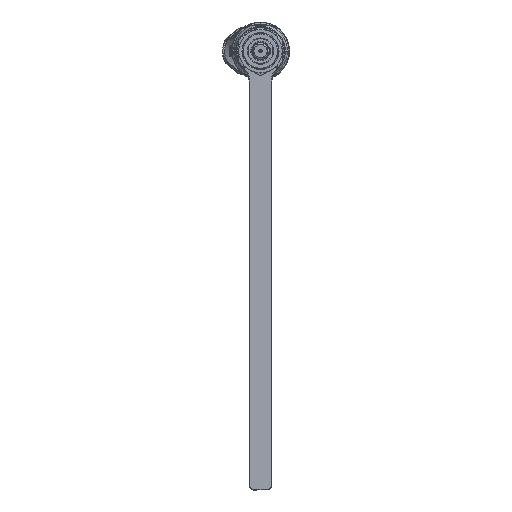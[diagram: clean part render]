
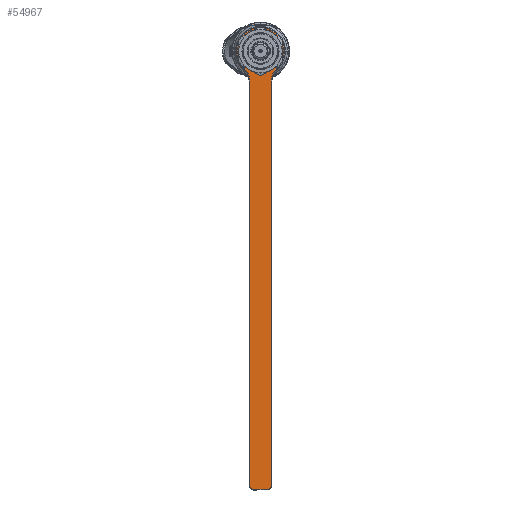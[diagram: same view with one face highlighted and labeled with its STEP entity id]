
A CAD part, left-side view. The second image highlights one B-rep face of the part: STEP entity #54967.
In plain terms, the highlighted planar face has unit normal (-1, 0, 0).
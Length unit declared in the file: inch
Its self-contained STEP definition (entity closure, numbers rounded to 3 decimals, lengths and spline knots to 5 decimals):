
#2051 = PLANE ( 'NONE',  #56205 ) ;
#2059 = CARTESIAN_POINT ( 'NONE',  ( -9.7045, 0., 0. ) ) ;
#2060 = DIRECTION ( 'NONE',  ( -1., 0., 0. ) ) ;
#2061 = DIRECTION ( 'NONE',  ( 0., 0., 1. ) ) ;
#6787 = FACE_BOUND ( 'NONE', #44068, .T. ) ;
#6791 = FACE_OUTER_BOUND ( 'NONE', #44103, .T. ) ;
#12773 = CIRCLE ( 'NONE', #20953, 0.64125 ) ;
#12779 = CIRCLE ( 'NONE', #20959, 0.11 ) ;
#12785 = LINE ( 'NONE', #59717, #12788 ) ;
#12788 = VECTOR ( 'NONE', #59706, 39.37008 ) ;
#12791 = CIRCLE ( 'NONE', #20970, 0.515 ) ;
#12794 = CIRCLE ( 'NONE', #20974, 0.55 ) ;
#12796 = CIRCLE ( 'NONE', #20972, 0.55 ) ;
#12798 = CIRCLE ( 'NONE', #20975, 0.64125 ) ;
#12800 = LINE ( 'NONE', #59737, #12802 ) ;
#12801 = CIRCLE ( 'NONE', #20977, 0.11 ) ;
#12802 = VECTOR ( 'NONE', #59738, 39.37008 ) ;
#12803 = LINE ( 'NONE', #59742, #12805 ) ;
#12804 = CIRCLE ( 'NONE', #20978, 0.515 ) ;
#12805 = VECTOR ( 'NONE', #59743, 39.37008 ) ;
#13896 = VERTEX_POINT ( 'NONE', #57697 ) ;
#14221 = VERTEX_POINT ( 'NONE', #18687 ) ;
#18687 = CARTESIAN_POINT ( 'NONE',  ( -9.7045, -0.2975, -11.875 ) ) ;
#20953 = AXIS2_PLACEMENT_3D ( 'NONE', #59700, #59701, #59702 ) ;
#20959 = AXIS2_PLACEMENT_3D ( 'NONE', #59711, #59712, #59713 ) ;
#20970 = AXIS2_PLACEMENT_3D ( 'NONE', #59731, #59732, #59733 ) ;
#20972 = AXIS2_PLACEMENT_3D ( 'NONE', #59734, #59735, #59736 ) ;
#20974 = AXIS2_PLACEMENT_3D ( 'NONE', #59739, #59740, #59741 ) ;
#20975 = AXIS2_PLACEMENT_3D ( 'NONE', #59744, #59745, #59746 ) ;
#20977 = AXIS2_PLACEMENT_3D ( 'NONE', #59747, #59748, #59749 ) ;
#20978 = AXIS2_PLACEMENT_3D ( 'NONE', #59751, #59752, #59753 ) ;
#44068 = EDGE_LOOP ( 'NONE', ( #58254, #57926 ) ) ;
#44103 = EDGE_LOOP ( 'NONE', ( #59277, #57931, #58612, #57897, #58042, #59279, #57820, #59060, #57831 ) ) ;
#47450 = VERTEX_POINT ( 'NONE', #58534 ) ;
#47507 = VERTEX_POINT ( 'NONE', #58581 ) ;
#48015 = VERTEX_POINT ( 'NONE', #58801 ) ;
#48230 = VERTEX_POINT ( 'NONE', #58851 ) ;
#48320 = VERTEX_POINT ( 'NONE', #58881 ) ;
#48406 = VERTEX_POINT ( 'NONE', #58904 ) ;
#48510 = VERTEX_POINT ( 'NONE', #58950 ) ;
#48518 = VERTEX_POINT ( 'NONE', #58955 ) ;
#48760 = VERTEX_POINT ( 'NONE', #59068 ) ;
#49933 = EDGE_CURVE ( 'NONE', #48518, #48320, #12773, .T. ) ;
#49936 = EDGE_CURVE ( 'NONE', #48760, #47507, #12779, .T. ) ;
#49939 = EDGE_CURVE ( 'NONE', #48510, #48760, #12785, .T. ) ;
#49944 = EDGE_CURVE ( 'NONE', #13896, #48510, #12791, .T. ) ;
#49945 = EDGE_CURVE ( 'NONE', #48015, #48230, #12796, .T. ) ;
#49946 = EDGE_CURVE ( 'NONE', #48230, #48015, #12794, .T. ) ;
#49947 = EDGE_CURVE ( 'NONE', #48320, #13896, #12798, .T. ) ;
#49948 = EDGE_CURVE ( 'NONE', #47507, #47450, #12800, .T. ) ;
#49949 = EDGE_CURVE ( 'NONE', #47450, #14221, #12801, .T. ) ;
#49950 = EDGE_CURVE ( 'NONE', #14221, #48406, #12803, .T. ) ;
#49951 = EDGE_CURVE ( 'NONE', #48406, #48518, #12804, .T. ) ;
#54967 = ADVANCED_FACE ( 'NONE', ( #6787, #6791 ), #2051, .T. ) ;
#56205 = AXIS2_PLACEMENT_3D ( 'NONE', #2059, #2060, #2061 ) ;
#57697 = CARTESIAN_POINT ( 'NONE',  ( -9.7045, 0.45061, -0.45624 ) ) ;
#57820 = ORIENTED_EDGE ( 'NONE', *, *, #49949, .T. ) ;
#57831 = ORIENTED_EDGE ( 'NONE', *, *, #49951, .T. ) ;
#57897 = ORIENTED_EDGE ( 'NONE', *, *, #49939, .T. ) ;
#57926 = ORIENTED_EDGE ( 'NONE', *, *, #49946, .T. ) ;
#57931 = ORIENTED_EDGE ( 'NONE', *, *, #49947, .T. ) ;
#58042 = ORIENTED_EDGE ( 'NONE', *, *, #49936, .T. ) ;
#58254 = ORIENTED_EDGE ( 'NONE', *, *, #49945, .T. ) ;
#58534 = CARTESIAN_POINT ( 'NONE',  ( -9.7045, -0.1875, -11.985 ) ) ;
#58581 = CARTESIAN_POINT ( 'NONE',  ( -9.7045, 0.1875, -11.985 ) ) ;
#58612 = ORIENTED_EDGE ( 'NONE', *, *, #49944, .T. ) ;
#58801 = CARTESIAN_POINT ( 'NONE',  ( -9.7045, 0., -0.55 ) ) ;
#58851 = CARTESIAN_POINT ( 'NONE',  ( -9.7045, 0., 0.55 ) ) ;
#58881 = CARTESIAN_POINT ( 'NONE',  ( -9.7045, 0., 0.64125 ) ) ;
#58904 = CARTESIAN_POINT ( 'NONE',  ( -9.7045, -0.2975, -0.82265 ) ) ;
#58950 = CARTESIAN_POINT ( 'NONE',  ( -9.7045, 0.2975, -0.82265 ) ) ;
#58955 = CARTESIAN_POINT ( 'NONE',  ( -9.7045, -0.45061, -0.45624 ) ) ;
#59060 = ORIENTED_EDGE ( 'NONE', *, *, #49950, .T. ) ;
#59068 = CARTESIAN_POINT ( 'NONE',  ( -9.7045, 0.2975, -11.875 ) ) ;
#59277 = ORIENTED_EDGE ( 'NONE', *, *, #49933, .T. ) ;
#59279 = ORIENTED_EDGE ( 'NONE', *, *, #49948, .T. ) ;
#59700 = CARTESIAN_POINT ( 'NONE',  ( -9.7045, 0., 0. ) ) ;
#59701 = DIRECTION ( 'NONE',  ( -1., 0., 0. ) ) ;
#59702 = DIRECTION ( 'NONE',  ( 0., 0., 1. ) ) ;
#59706 = DIRECTION ( 'NONE',  ( 0., 0., -1. ) ) ;
#59711 = CARTESIAN_POINT ( 'NONE',  ( -9.7045, 0.1875, -11.875 ) ) ;
#59712 = DIRECTION ( 'NONE',  ( -1., 0., 0. ) ) ;
#59713 = DIRECTION ( 'NONE',  ( 0., 0., 1. ) ) ;
#59717 = CARTESIAN_POINT ( 'NONE',  ( -9.7045, 0.2975, -11.875 ) ) ;
#59731 = CARTESIAN_POINT ( 'NONE',  ( -9.7045, 0.8125, -0.82265 ) ) ;
#59732 = DIRECTION ( 'NONE',  ( 1., 0., 0. ) ) ;
#59733 = DIRECTION ( 'NONE',  ( 0., 0., 1. ) ) ;
#59734 = CARTESIAN_POINT ( 'NONE',  ( -9.7045, 0., 0. ) ) ;
#59735 = DIRECTION ( 'NONE',  ( 1., 0., 0. ) ) ;
#59736 = DIRECTION ( 'NONE',  ( 0., 0., -1. ) ) ;
#59737 = CARTESIAN_POINT ( 'NONE',  ( -9.7045, -0.1875, -11.985 ) ) ;
#59738 = DIRECTION ( 'NONE',  ( 0., -1., 0. ) ) ;
#59739 = CARTESIAN_POINT ( 'NONE',  ( -9.7045, 0., 0. ) ) ;
#59740 = DIRECTION ( 'NONE',  ( 1., 0., 0. ) ) ;
#59741 = DIRECTION ( 'NONE',  ( 0., 0., -1. ) ) ;
#59742 = CARTESIAN_POINT ( 'NONE',  ( -9.7045, -0.2975, -0.82265 ) ) ;
#59743 = DIRECTION ( 'NONE',  ( 0., 0., 1. ) ) ;
#59744 = CARTESIAN_POINT ( 'NONE',  ( -9.7045, 0., 0. ) ) ;
#59745 = DIRECTION ( 'NONE',  ( -1., 0., 0. ) ) ;
#59746 = DIRECTION ( 'NONE',  ( 0., 0., 1. ) ) ;
#59747 = CARTESIAN_POINT ( 'NONE',  ( -9.7045, -0.1875, -11.875 ) ) ;
#59748 = DIRECTION ( 'NONE',  ( -1., 0., 0. ) ) ;
#59749 = DIRECTION ( 'NONE',  ( 0., 0., 1. ) ) ;
#59751 = CARTESIAN_POINT ( 'NONE',  ( -9.7045, -0.8125, -0.82265 ) ) ;
#59752 = DIRECTION ( 'NONE',  ( 1., 0., 0. ) ) ;
#59753 = DIRECTION ( 'NONE',  ( 0., 0., 1. ) ) ;
